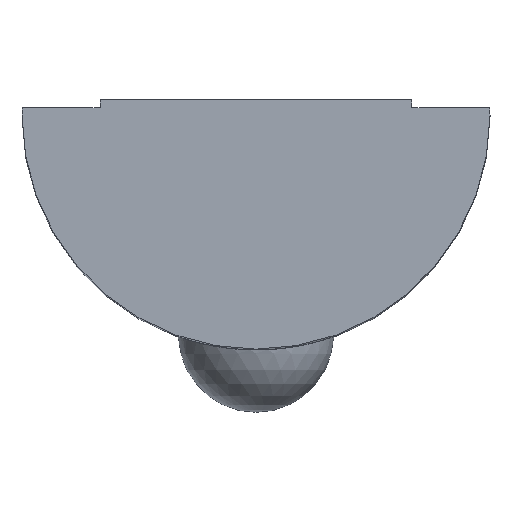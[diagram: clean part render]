
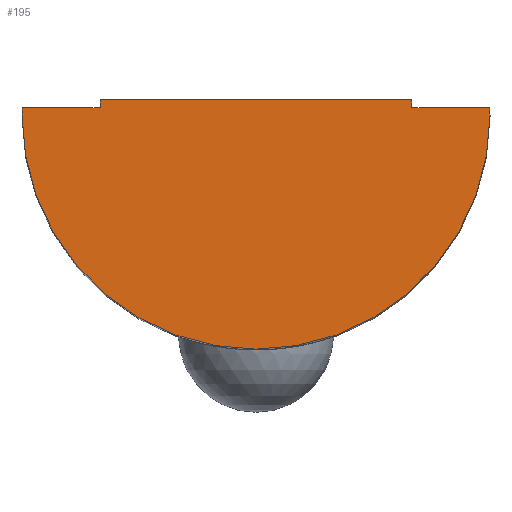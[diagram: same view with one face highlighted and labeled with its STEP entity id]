
A CAD part, top view. The second image highlights one B-rep face of the part: STEP entity #195.
In plain terms, the highlighted planar face has unit normal (0, 0, 1).
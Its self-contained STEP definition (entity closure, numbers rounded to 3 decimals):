
#2 = AXIS2_PLACEMENT_3D ( 'NONE', #416, #611, #660 ) ;
#11 = LINE ( 'NONE', #628, #164 ) ;
#16 = FACE_OUTER_BOUND ( 'NONE', #56, .T. ) ;
#22 = DIRECTION ( 'NONE',  ( 0., 0., 1. ) ) ;
#34 = DIRECTION ( 'NONE',  ( -1., 0., 0. ) ) ;
#41 = DIRECTION ( 'NONE',  ( -1., 0., 0. ) ) ;
#56 = EDGE_LOOP ( 'NONE', ( #401, #665, #394, #119, #294, #269, #470, #306 ) ) ;
#86 = DIRECTION ( 'NONE',  ( 0., 0., 1. ) ) ;
#106 = CARTESIAN_POINT ( 'NONE',  ( -11.754, 3.745, 23. ) ) ;
#118 = VERTEX_POINT ( 'NONE', #503 ) ;
#119 = ORIENTED_EDGE ( 'NONE', *, *, #265, .T. ) ;
#135 = AXIS2_PLACEMENT_3D ( 'NONE', #605, #22, #667 ) ;
#140 = CIRCLE ( 'NONE', #361, 7.504 ) ;
#142 = EDGE_CURVE ( 'NONE', #118, #603, #297, .T. ) ;
#143 = VECTOR ( 'NONE', #440, 1000. ) ;
#148 = DIRECTION ( 'NONE',  ( 0., 1., 0. ) ) ;
#151 = CARTESIAN_POINT ( 'NONE',  ( -11.754, 3.495, 23. ) ) ;
#164 = VECTOR ( 'NONE', #375, 1000. ) ;
#172 = EDGE_CURVE ( 'NONE', #352, #118, #458, .T. ) ;
#195 = ADVANCED_FACE ( 'NONE', ( #16 ), #369, .T. ) ;
#204 = CARTESIAN_POINT ( 'NONE',  ( -11.754, 3.745, 23. ) ) ;
#210 = DIRECTION ( 'NONE',  ( 1., 0., 0. ) ) ;
#220 = EDGE_CURVE ( 'NONE', #363, #352, #140, .T. ) ;
#245 = LINE ( 'NONE', #204, #344 ) ;
#258 = DIRECTION ( 'NONE',  ( 0., 0., 1. ) ) ;
#265 = EDGE_CURVE ( 'NONE', #603, #655, #689, .T. ) ;
#267 = CARTESIAN_POINT ( 'NONE',  ( -16.754, 3.25, 23. ) ) ;
#269 = ORIENTED_EDGE ( 'NONE', *, *, #323, .T. ) ;
#289 = EDGE_CURVE ( 'NONE', #655, #490, #245, .T. ) ;
#294 = ORIENTED_EDGE ( 'NONE', *, *, #289, .T. ) ;
#295 = LINE ( 'NONE', #623, #526 ) ;
#297 = CIRCLE ( 'NONE', #2, 7.504 ) ;
#306 = ORIENTED_EDGE ( 'NONE', *, *, #354, .T. ) ;
#323 = EDGE_CURVE ( 'NONE', #490, #544, #295, .T. ) ;
#344 = VECTOR ( 'NONE', #148, 1000. ) ;
#345 = EDGE_CURVE ( 'NONE', #544, #663, #11, .T. ) ;
#352 = VERTEX_POINT ( 'NONE', #370 ) ;
#354 = EDGE_CURVE ( 'NONE', #663, #363, #555, .T. ) ;
#361 = AXIS2_PLACEMENT_3D ( 'NONE', #421, #86, #475 ) ;
#363 = VERTEX_POINT ( 'NONE', #378 ) ;
#366 = CARTESIAN_POINT ( 'NONE',  ( -11.754, 3.495, 23. ) ) ;
#368 = VECTOR ( 'NONE', #34, 1000. ) ;
#369 = PLANE ( 'NONE',  #396 ) ;
#370 = CARTESIAN_POINT ( 'NONE',  ( -24.258, 3.25, 23. ) ) ;
#375 = DIRECTION ( 'NONE',  ( 0., -1., 0. ) ) ;
#378 = CARTESIAN_POINT ( 'NONE',  ( -24.254, 3.495, 23. ) ) ;
#394 = ORIENTED_EDGE ( 'NONE', *, *, #142, .T. ) ;
#396 = AXIS2_PLACEMENT_3D ( 'NONE', #267, #258, #210 ) ;
#401 = ORIENTED_EDGE ( 'NONE', *, *, #220, .T. ) ;
#416 = CARTESIAN_POINT ( 'NONE',  ( -16.754, 3.25, 23. ) ) ;
#421 = CARTESIAN_POINT ( 'NONE',  ( -16.754, 3.25, 23. ) ) ;
#431 = CARTESIAN_POINT ( 'NONE',  ( -21.754, 3.495, 23. ) ) ;
#440 = DIRECTION ( 'NONE',  ( -1., 0., 0. ) ) ;
#458 = CIRCLE ( 'NONE', #135, 7.504 ) ;
#470 = ORIENTED_EDGE ( 'NONE', *, *, #345, .T. ) ;
#475 = DIRECTION ( 'NONE',  ( 1., 0., 0. ) ) ;
#490 = VERTEX_POINT ( 'NONE', #106 ) ;
#503 = CARTESIAN_POINT ( 'NONE',  ( -9.25, 3.25, 23. ) ) ;
#526 = VECTOR ( 'NONE', #41, 1000. ) ;
#544 = VERTEX_POINT ( 'NONE', #589 ) ;
#546 = CARTESIAN_POINT ( 'NONE',  ( -9.254, 3.495, 23. ) ) ;
#555 = LINE ( 'NONE', #586, #143 ) ;
#586 = CARTESIAN_POINT ( 'NONE',  ( -21.754, 3.495, 23. ) ) ;
#589 = CARTESIAN_POINT ( 'NONE',  ( -21.754, 3.745, 23. ) ) ;
#603 = VERTEX_POINT ( 'NONE', #546 ) ;
#605 = CARTESIAN_POINT ( 'NONE',  ( -16.754, 3.25, 23. ) ) ;
#611 = DIRECTION ( 'NONE',  ( 0., 0., 1. ) ) ;
#623 = CARTESIAN_POINT ( 'NONE',  ( -16.754, 3.745, 23. ) ) ;
#628 = CARTESIAN_POINT ( 'NONE',  ( -21.754, 3.745, 23. ) ) ;
#655 = VERTEX_POINT ( 'NONE', #151 ) ;
#660 = DIRECTION ( 'NONE',  ( 1., 0., 0. ) ) ;
#663 = VERTEX_POINT ( 'NONE', #431 ) ;
#665 = ORIENTED_EDGE ( 'NONE', *, *, #172, .T. ) ;
#667 = DIRECTION ( 'NONE',  ( 1., 0., 0. ) ) ;
#689 = LINE ( 'NONE', #366, #368 ) ;
